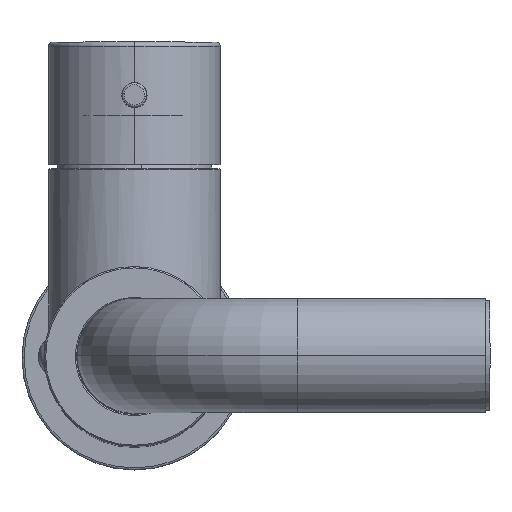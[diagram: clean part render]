
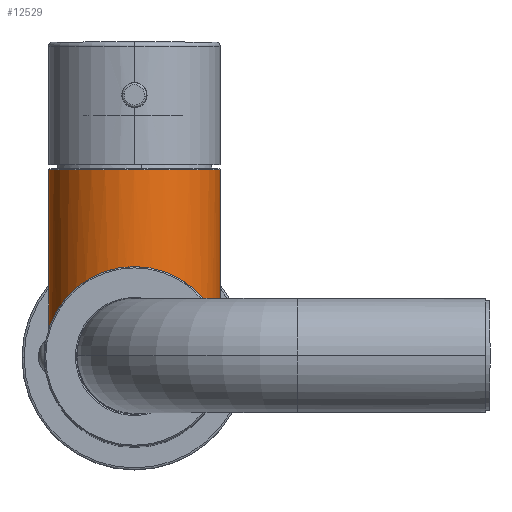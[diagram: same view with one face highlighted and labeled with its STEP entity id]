
A CAD part, top view. The second image highlights one B-rep face of the part: STEP entity #12529.
In plain terms, the highlighted cylindrical face has radius 21 mm (diameter 42 mm), a partial arc.
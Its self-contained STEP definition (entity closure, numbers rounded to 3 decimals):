
#323 = CARTESIAN_POINT ( 'NONE',  ( 20.397, -5.044, 1.697 ) ) ;
#427 = CARTESIAN_POINT ( 'NONE',  ( 20.997, -0.385, 0.008 ) ) ;
#546 = CARTESIAN_POINT ( 'NONE',  ( 16.957, -12.404, 7.472 ) ) ;
#600 = CARTESIAN_POINT ( 'NONE',  ( 21., 0., 0. ) ) ;
#856 = CARTESIAN_POINT ( 'NONE',  ( -4.919, -20.419, 14.889 ) ) ;
#1005 = CARTESIAN_POINT ( 'NONE',  ( 0., 0., 39.5 ) ) ;
#1107 = VECTOR ( 'NONE', #12402, 1000. ) ;
#1123 = ORIENTED_EDGE ( 'NONE', *, *, #21206, .T. ) ;
#1182 = CARTESIAN_POINT ( 'NONE',  ( -20.397, -5.043, 1.697 ) ) ;
#1186 = CARTESIAN_POINT ( 'NONE',  ( -21., 0., 39.5 ) ) ;
#1291 = CARTESIAN_POINT ( 'NONE',  ( -8.101, -19.388, 13.909 ) ) ;
#1960 = CARTESIAN_POINT ( 'NONE',  ( 20.979, -0.967, 0.068 ) ) ;
#2024 = DIRECTION ( 'NONE',  ( 1., 0., 0. ) ) ;
#2059 = CARTESIAN_POINT ( 'NONE',  ( 18.325, -10.331, 5.668 ) ) ;
#2069 = EDGE_CURVE ( 'NONE', #12116, #18994, #14301, .T. ) ;
#2171 = CARTESIAN_POINT ( 'NONE',  ( 6.032, -20.129, 14.612 ) ) ;
#2512 = CARTESIAN_POINT ( 'NONE',  ( 21., 0., 39.5 ) ) ;
#2549 = CARTESIAN_POINT ( 'NONE',  ( 0., -21., 15.443 ) ) ;
#2594 = CARTESIAN_POINT ( 'NONE',  ( -20.786, -3.011, 0.652 ) ) ;
#3349 = CARTESIAN_POINT ( 'NONE',  ( 21., 0., 39.2 ) ) ;
#3544 = CARTESIAN_POINT ( 'NONE',  ( 20.916, -1.914, 0.265 ) ) ;
#3651 = CARTESIAN_POINT ( 'NONE',  ( 1.564, -21., 15.443 ) ) ;
#3707 = CARTESIAN_POINT ( 'NONE',  ( -21., 0., 39.2 ) ) ;
#3859 = CARTESIAN_POINT ( 'NONE',  ( 3.083, -20.828, 15.278 ) ) ;
#4087 = VERTEX_POINT ( 'NONE', #8255 ) ;
#4174 = CARTESIAN_POINT ( 'NONE',  ( -1.564, -21., 15.443 ) ) ;
#4394 = CARTESIAN_POINT ( 'NONE',  ( -6.369, -20.014, 14.504 ) ) ;
#4500 = CARTESIAN_POINT ( 'NONE',  ( -19.838, -6.918, 2.964 ) ) ;
#4818 = CIRCLE ( 'NONE', #11377, 21. ) ;
#5152 = CARTESIAN_POINT ( 'NONE',  ( 19.839, -6.917, 2.964 ) ) ;
#5318 = AXIS2_PLACEMENT_3D ( 'NONE', #1005, #14028, #12417 ) ;
#5504 = VECTOR ( 'NONE', #12700, 1000. ) ;
#5780 = CARTESIAN_POINT ( 'NONE',  ( -21., -0.786, 0. ) ) ;
#6006 = LINE ( 'NONE', #1186, #5504 ) ;
#6216 = CARTESIAN_POINT ( 'NONE',  ( -15.752, -13.903, 8.813 ) ) ;
#6778 = CARTESIAN_POINT ( 'NONE',  ( 0., -21., 15.443 ) ) ;
#6987 = CARTESIAN_POINT ( 'NONE',  ( 5.3, -20.334, 14.808 ) ) ;
#7101 = CARTESIAN_POINT ( 'NONE',  ( 20.228, -5.68, 2.106 ) ) ;
#7200 = EDGE_CURVE ( 'NONE', #4087, #12116, #7260, .T. ) ;
#7260 = B_SPLINE_CURVE_WITH_KNOTS ( 'NONE', 3,
 ( #12799, #5780, #19267, #20572, #2594, #12481, #14313, #1182, #9472, #4500, #9367, #20998, #18935, #20782, #14092, #14194, #6216, #9038, #10982, #16039, #17322, #15600, #11199, #1291, #12373, #4394, #19048, #20897, #856, #7855, #4174, #7641 ),
 .UNSPECIFIED., .F., .F.,
 ( 4, 2, 2, 2, 2, 2, 2, 2, 2, 2, 2, 2, 2, 2, 2, 4 ),
 ( 0.037, 0.039, 0.04, 0.042, 0.044, 0.046, 0.051, 0.053, 0.055, 0.06, 0.062, 0.065, 0.067, 0.068, 0.069, 0.074 ),
 .UNSPECIFIED. ) ;
#7641 = CARTESIAN_POINT ( 'NONE',  ( 0., -21., 15.443 ) ) ;
#7685 = EDGE_CURVE ( 'NONE', #7935, #18994, #17247, .T. ) ;
#7855 = CARTESIAN_POINT ( 'NONE',  ( -3.08, -20.828, 15.278 ) ) ;
#7935 = VERTEX_POINT ( 'NONE', #3349 ) ;
#8165 = CARTESIAN_POINT ( 'NONE',  ( 0., 0., 39.2 ) ) ;
#8176 = EDGE_CURVE ( 'NONE', #10595, #4087, #6006, .T. ) ;
#8255 = CARTESIAN_POINT ( 'NONE',  ( -21., 0., 0. ) ) ;
#8408 = CARTESIAN_POINT ( 'NONE',  ( 20.836, -2.645, 0.505 ) ) ;
#8511 = CARTESIAN_POINT ( 'NONE',  ( 7.435, -19.654, 14.161 ) ) ;
#8727 = CARTESIAN_POINT ( 'NONE',  ( 10.046, -18.454, 13.027 ) ) ;
#8791 = ORIENTED_EDGE ( 'NONE', *, *, #7685, .F. ) ;
#8844 = CARTESIAN_POINT ( 'NONE',  ( 8.111, -19.384, 13.905 ) ) ;
#9038 = CARTESIAN_POINT ( 'NONE',  ( -14.434, -15.307, 10.09 ) ) ;
#9367 = CARTESIAN_POINT ( 'NONE',  ( -19.621, -7.511, 3.407 ) ) ;
#9472 = CARTESIAN_POINT ( 'NONE',  ( -20.227, -5.682, 2.108 ) ) ;
#10131 = CARTESIAN_POINT ( 'NONE',  ( 20.947, -1.541, 0.168 ) ) ;
#10230 = CARTESIAN_POINT ( 'NONE',  ( 17.318, -11.895, 7.023 ) ) ;
#10595 = VERTEX_POINT ( 'NONE', #3707 ) ;
#10803 = CYLINDRICAL_SURFACE ( 'NONE', #5318, 21. ) ;
#10982 = CARTESIAN_POINT ( 'NONE',  ( -13.459, -16.177, 10.896 ) ) ;
#11199 = CARTESIAN_POINT ( 'NONE',  ( -9.403, -18.791, 13.345 ) ) ;
#11377 = AXIS2_PLACEMENT_3D ( 'NONE', #8165, #11498, #2024 ) ;
#11498 = DIRECTION ( 'NONE',  ( 0., 0., -1. ) ) ;
#11738 = CARTESIAN_POINT ( 'NONE',  ( 9.416, -18.785, 13.339 ) ) ;
#11842 = CARTESIAN_POINT ( 'NONE',  ( 15.764, -13.889, 8.801 ) ) ;
#11918 = EDGE_LOOP ( 'NONE', ( #8791, #1123, #16672, #19106, #14673 ) ) ;
#12116 = VERTEX_POINT ( 'NONE', #2549 ) ;
#12373 = CARTESIAN_POINT ( 'NONE',  ( -7.425, -19.658, 14.165 ) ) ;
#12402 = DIRECTION ( 'NONE',  ( 0., 0., -1. ) ) ;
#12417 = DIRECTION ( 'NONE',  ( -1., 0., 0. ) ) ;
#12481 = CARTESIAN_POINT ( 'NONE',  ( -20.673, -3.708, 0.969 ) ) ;
#12529 = ADVANCED_FACE ( 'NONE', ( #15758 ), #10803, .T. ) ;
#12700 = DIRECTION ( 'NONE',  ( 0., 0., -1. ) ) ;
#12799 = CARTESIAN_POINT ( 'NONE',  ( -21., 0., 0. ) ) ;
#13349 = CARTESIAN_POINT ( 'NONE',  ( 16.181, -13.4, 8.36 ) ) ;
#13456 = CARTESIAN_POINT ( 'NONE',  ( 20.987, -0.772, 0.043 ) ) ;
#13669 = CARTESIAN_POINT ( 'NONE',  ( 20.61, -4.045, 1.142 ) ) ;
#14028 = DIRECTION ( 'NONE',  ( 0., 0., -1. ) ) ;
#14092 = CARTESIAN_POINT ( 'NONE',  ( -16.948, -12.416, 7.482 ) ) ;
#14194 = CARTESIAN_POINT ( 'NONE',  ( -16.166, -13.419, 8.376 ) ) ;
#14301 = B_SPLINE_CURVE_WITH_KNOTS ( 'NONE', 3,
 ( #6778, #3651, #3859, #6987, #2171, #8511, #8844, #11738, #8727, #18200, #18402, #18505, #15172, #11842, #13349, #546, #10230, #2059, #16587, #19932, #5152, #7101, #323, #13669, #16894, #18300, #8408, #3544, #10131, #1960, #13456, #427, #16686, #15064 ),
 .UNSPECIFIED., .F., .F.,
 ( 4, 2, 2, 2, 2, 2, 2, 2, 2, 2, 2, 2, 2, 2, 2, 2, 4 ),
 ( 0.074, 0.079, 0.081, 0.083, 0.085, 0.088, 0.092, 0.095, 0.097, 0.102, 0.104, 0.106, 0.107, 0.109, 0.11, 0.11, 0.111 ),
 .UNSPECIFIED. ) ;
#14313 = CARTESIAN_POINT ( 'NONE',  ( -20.609, -4.047, 1.143 ) ) ;
#14673 = ORIENTED_EDGE ( 'NONE', *, *, #2069, .T. ) ;
#15064 = CARTESIAN_POINT ( 'NONE',  ( 21., 0., 0. ) ) ;
#15172 = CARTESIAN_POINT ( 'NONE',  ( 14.441, -15.301, 10.085 ) ) ;
#15600 = CARTESIAN_POINT ( 'NONE',  ( -10.029, -18.464, 13.036 ) ) ;
#15758 = FACE_OUTER_BOUND ( 'NONE', #11918, .T. ) ;
#16039 = CARTESIAN_POINT ( 'NONE',  ( -11.816, -17.373, 12.012 ) ) ;
#16587 = CARTESIAN_POINT ( 'NONE',  ( 18.898, -9.243, 4.752 ) ) ;
#16672 = ORIENTED_EDGE ( 'NONE', *, *, #8176, .T. ) ;
#16686 = CARTESIAN_POINT ( 'NONE',  ( 21., -0.192, 0. ) ) ;
#16894 = CARTESIAN_POINT ( 'NONE',  ( 20.674, -3.705, 0.968 ) ) ;
#17247 = LINE ( 'NONE', #2512, #1107 ) ;
#17322 = CARTESIAN_POINT ( 'NONE',  ( -11.235, -17.755, 12.37 ) ) ;
#18200 = CARTESIAN_POINT ( 'NONE',  ( 11.257, -17.742, 12.357 ) ) ;
#18300 = CARTESIAN_POINT ( 'NONE',  ( 20.787, -3.003, 0.648 ) ) ;
#18402 = CARTESIAN_POINT ( 'NONE',  ( 11.83, -17.364, 12.003 ) ) ;
#18505 = CARTESIAN_POINT ( 'NONE',  ( 13.464, -16.172, 10.891 ) ) ;
#18935 = CARTESIAN_POINT ( 'NONE',  ( -18.324, -10.334, 5.67 ) ) ;
#18994 = VERTEX_POINT ( 'NONE', #600 ) ;
#19048 = CARTESIAN_POINT ( 'NONE',  ( -6.008, -20.126, 14.61 ) ) ;
#19106 = ORIENTED_EDGE ( 'NONE', *, *, #7200, .T. ) ;
#19267 = CARTESIAN_POINT ( 'NONE',  ( -20.956, -1.544, 0.143 ) ) ;
#19932 = CARTESIAN_POINT ( 'NONE',  ( 19.62, -7.512, 3.407 ) ) ;
#20572 = CARTESIAN_POINT ( 'NONE',  ( -20.835, -2.651, 0.507 ) ) ;
#20782 = CARTESIAN_POINT ( 'NONE',  ( -17.311, -11.904, 7.031 ) ) ;
#20897 = CARTESIAN_POINT ( 'NONE',  ( -5.284, -20.328, 14.802 ) ) ;
#20998 = CARTESIAN_POINT ( 'NONE',  ( -18.898, -9.243, 4.752 ) ) ;
#21206 = EDGE_CURVE ( 'NONE', #7935, #10595, #4818, .T. ) ;
